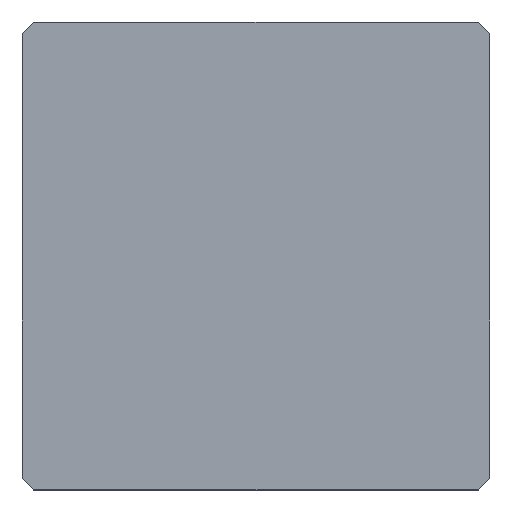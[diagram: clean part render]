
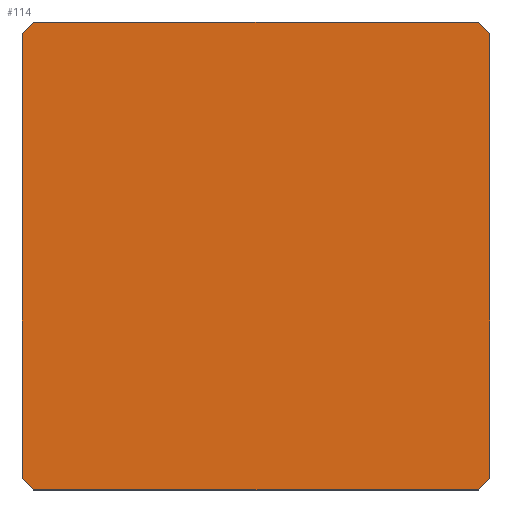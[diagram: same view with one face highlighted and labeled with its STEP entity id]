
A CAD part, top view. The second image highlights one B-rep face of the part: STEP entity #114.
In plain terms, the highlighted planar face has unit normal (0, 0, 1).
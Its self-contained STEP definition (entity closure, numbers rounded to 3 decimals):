
#114=ADVANCED_FACE('',(#134),#124,.T.);
#124=PLANE('',#291);
#134=FACE_OUTER_BOUND('',#144,.T.);
#144=EDGE_LOOP('',(#185,#186,#187,#188,#189,#190,#191,#192));
#185=ORIENTED_EDGE('',*,*,#209,.T.);
#186=ORIENTED_EDGE('',*,*,#213,.F.);
#187=ORIENTED_EDGE('',*,*,#216,.T.);
#188=ORIENTED_EDGE('',*,*,#219,.F.);
#189=ORIENTED_EDGE('',*,*,#222,.T.);
#190=ORIENTED_EDGE('',*,*,#225,.F.);
#191=ORIENTED_EDGE('',*,*,#228,.T.);
#192=ORIENTED_EDGE('',*,*,#231,.F.);
#193=VERTEX_POINT('',#340);
#194=VERTEX_POINT('',#341);
#197=VERTEX_POINT('',#349);
#199=VERTEX_POINT('',#355);
#201=VERTEX_POINT('',#361);
#203=VERTEX_POINT('',#367);
#205=VERTEX_POINT('',#373);
#207=VERTEX_POINT('',#379);
#209=EDGE_CURVE('',#193,#194,#233,.T.);
#213=EDGE_CURVE('',#197,#194,#237,.T.);
#216=EDGE_CURVE('',#197,#199,#240,.T.);
#219=EDGE_CURVE('',#201,#199,#243,.T.);
#222=EDGE_CURVE('',#201,#203,#246,.T.);
#225=EDGE_CURVE('',#205,#203,#249,.T.);
#228=EDGE_CURVE('',#205,#207,#252,.T.);
#231=EDGE_CURVE('',#193,#207,#255,.T.);
#233=LINE('',#339,#257);
#237=LINE('',#348,#261);
#240=LINE('',#354,#264);
#243=LINE('',#360,#267);
#246=LINE('',#366,#270);
#249=LINE('',#372,#273);
#252=LINE('',#378,#276);
#255=LINE('',#384,#279);
#257=VECTOR('',#294,1.);
#261=VECTOR('',#300,1.);
#264=VECTOR('',#305,1.);
#267=VECTOR('',#310,1.);
#270=VECTOR('',#315,1.);
#273=VECTOR('',#320,1.);
#276=VECTOR('',#325,1.);
#279=VECTOR('',#330,1.);
#291=AXIS2_PLACEMENT_3D('',#388,#336,#337);
#294=DIRECTION('',(0.707,0.707,0.));
#300=DIRECTION('',(0.,-1.,0.));
#305=DIRECTION('',(-0.707,0.707,0.));
#310=DIRECTION('',(1.,0.,0.));
#315=DIRECTION('',(-0.707,-0.707,0.));
#320=DIRECTION('',(0.,1.,0.));
#325=DIRECTION('',(0.707,-0.707,0.));
#330=DIRECTION('',(-1.,0.,0.));
#336=DIRECTION('',(0.,0.,1.));
#337=DIRECTION('',(-1.,0.,0.));
#339=CARTESIAN_POINT('',(38.5,-40.5,0.));
#340=CARTESIAN_POINT('',(38.5,-40.5,0.));
#341=CARTESIAN_POINT('',(40.5,-38.5,0.));
#348=CARTESIAN_POINT('',(40.5,38.5,0.));
#349=CARTESIAN_POINT('',(40.5,38.5,0.));
#354=CARTESIAN_POINT('',(40.5,38.5,0.));
#355=CARTESIAN_POINT('',(38.5,40.5,0.));
#360=CARTESIAN_POINT('',(-38.5,40.5,0.));
#361=CARTESIAN_POINT('',(-38.5,40.5,0.));
#366=CARTESIAN_POINT('',(-38.5,40.5,0.));
#367=CARTESIAN_POINT('',(-40.5,38.5,0.));
#372=CARTESIAN_POINT('',(-40.5,-38.5,0.));
#373=CARTESIAN_POINT('',(-40.5,-38.5,0.));
#378=CARTESIAN_POINT('',(-40.5,-38.5,0.));
#379=CARTESIAN_POINT('',(-38.5,-40.5,0.));
#384=CARTESIAN_POINT('',(38.5,-40.5,0.));
#388=CARTESIAN_POINT('',(79.,0.,0.));
